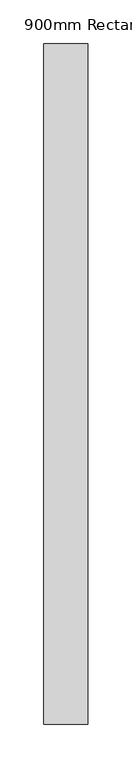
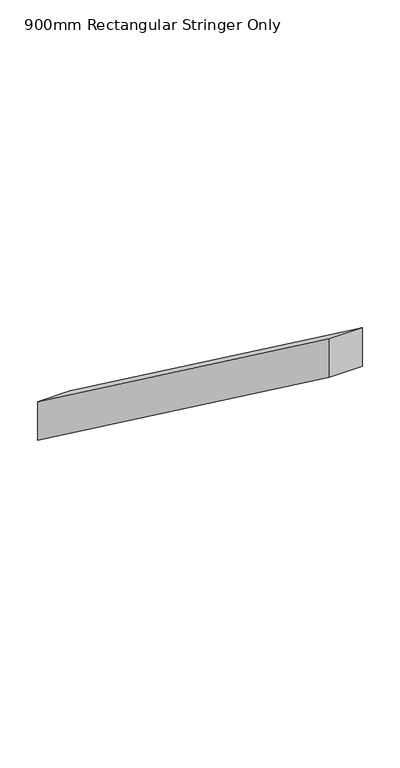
"""IFC4 building model written with IfcOpenShell, lengths in millimetres: railing geometry, 900mm Rectangular Stringer Only."""

from ifc_helpers import new_model, si_unit, frame, origin, place, context, project, spatial, polyline, outline, extrude, source, transform, mapped, element, save


def railing_900mm_rectangular_stringer_only_a61a1eb9(model_context):
    return source(origin(), model_context, "Body", "SweptSolid", [
        extrude(outline(polyline([(3632.2, 3833.7), (3632.2, 3771.5671251), (2857.4922485, 4343.0671251), (2857.4922485, 4405.2), (3632.2, 3833.7)])), frame((-1549.0, 0.0, 0.0), z_axis=(1.0, 0.0, 0.0), x_axis=(0.0, 1.0, 0.0)), (0.0, 0.0, 1.0), 50.0),
    ])


if __name__ == "__main__":
    model = new_model("IFC4")
    model_context = context("Model", 3, world=origin())
    ifc_project = project(units=[si_unit("LENGTHUNIT", "METRE", prefix="MILLI")], contexts=[model_context])
    site = spatial("IfcSite", under=ifc_project)
    building = spatial("IfcBuilding", under=site)
    placement = place(None, origin())
    railing_900mm_rectangular_stringer_only_shape = railing_900mm_rectangular_stringer_only_a61a1eb9(model_context)
    element("IfcRailing", 1, ObjectType="900mm Rectangular Stringer Only", at=placement, inside=building, context=model_context, shape_type="MappedRepresentation", body=[
        mapped(railing_900mm_rectangular_stringer_only_shape, transform((0.0, 0.0, 0.0), x_axis=(1.0, 0.0, 0.0), y_axis=(0.0, 1.0, 0.0), z_axis=(0.0, 0.0, 1.0))),
    ])
    save(model, "model.ifc")
